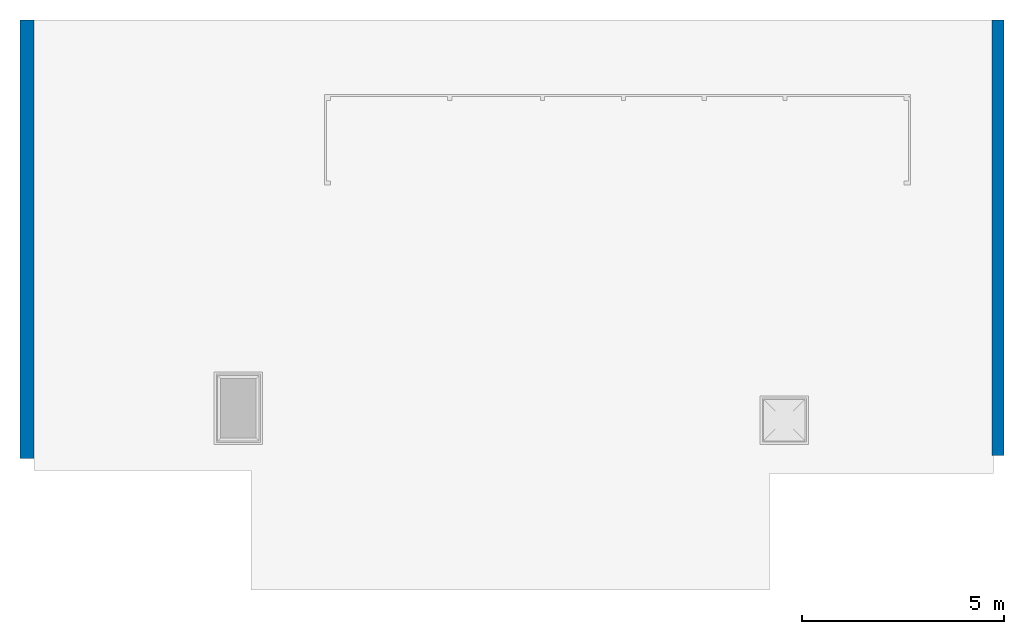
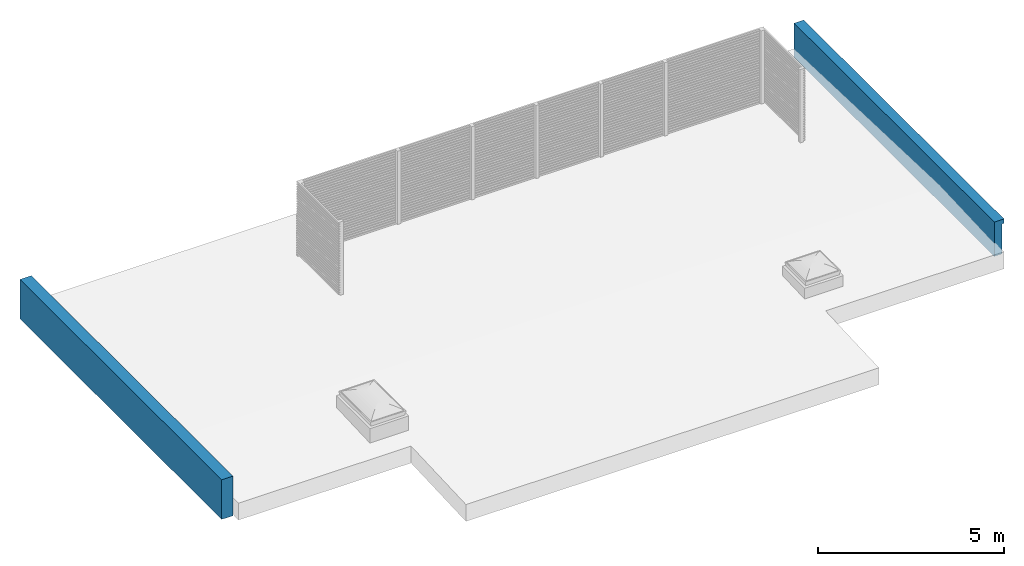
# One storey, part 1 of 4: 2 walls.
"""IFC2X3 building model written with IfcOpenShell, lengths in millimetres."""

import ifcopenshell
import ifcopenshell.guid

model = None  # the IFC model being written
_history = None  # IfcOwnerHistory: only IFC2X3 demands one
_inside = {}  # id of a spatial element -> (the spatial element, [elements in it])
_under = {}  # id of a project, library or spatial element -> (it, [spatial elements below it])
_declared = {}  # id of a project -> (the project, [libraries it declares])
_typed = {}  # id of a type object -> (the type object, [elements of that type])
_made_of = {}  # id of a material, layer set ... -> (it, [elements and type objects made of it])


def new_model(schema):
    """Start an empty IFC model of exactly this schema.

    Asked for "IFC4X3", IfcOpenShell would pick the latest addendum, in which some entities
    have other attributes; the version numbers below select the first issue.
    IFC2X3 requires an IfcOwnerHistory on every rooted entity: one is made here for all.
    """
    global model, _history
    if schema == "IFC4X3":
        model = ifcopenshell.file(schema_version=(4, 3, 0, 0))
    else:
        model = ifcopenshell.file(schema=schema)
    _inside.clear()
    _under.clear()
    _declared.clear()
    _typed.clear()
    _made_of.clear()
    _history = None
    if model.schema == "IFC2X3":
        org = make("IfcOrganization", Name="unknown")
        user = make(
            "IfcPersonAndOrganization",
            ThePerson=make("IfcPerson", FamilyName="unknown"),
            TheOrganization=org,
        )
        app = make(
            "IfcApplication",
            ApplicationDeveloper=org,
            Version="unknown",
            ApplicationFullName="unknown",
            ApplicationIdentifier="unknown",
        )
        _history = make(
            "IfcOwnerHistory",
            OwningUser=user,
            OwningApplication=app,
            ChangeAction="ADDED",
            CreationDate=0,
        )
    return model


def make(cls, **values):
    """One entity of the class cls with the attributes given. An attribute that is None is left unset."""
    return model.create_entity(
        cls, **{name: value for name, value in values.items() if value is not None}
    )


def entity(cls, *values):
    """Any entity or typed value of the class cls, its attributes in the order of the schema. None: left unset."""
    e = model.create_entity(cls)
    for i, value in enumerate(values):
        if value is not None:
            e[i] = value
    return e


def rooted(cls, **values):
    """An entity with a GlobalId (a new one), such as an element, a storey or a relation."""
    return make(cls, GlobalId=ifcopenshell.guid.new(), OwnerHistory=_history, **values)


def si_unit(unit_type, name, prefix=None):
    """IfcSIUnit, for example si_unit("LENGTHUNIT", "METRE", prefix="MILLI")."""
    return make("IfcSIUnit", UnitType=unit_type, Prefix=prefix, Name=name)


def converted_unit(unit_type, name, factor, base, dimensions=None, offset=None):
    """IfcConversionBasedUnit, such as the inch: factor (a typed value) times the base unit."""
    return make(
        "IfcConversionBasedUnit"
        if offset is None
        else "IfcConversionBasedUnitWithOffset",
        ConversionOffset=offset,
        Dimensions=None
        if dimensions is None
        else entity("IfcDimensionalExponents", *dimensions),
        UnitType=unit_type,
        Name=name,
        ConversionFactor=make(
            "IfcMeasureWithUnit", ValueComponent=factor, UnitComponent=base
        ),
    )


def derived_unit(unit_type, elements):
    """IfcDerivedUnit: a product of units, each with its exponent."""
    return make(
        "IfcDerivedUnit",
        Elements=[
            make("IfcDerivedUnitElement", Unit=unit, Exponent=power)
            for unit, power in elements
        ],
        UnitType=unit_type,
    )


def assignment(units):
    """IfcUnitAssignment: the units of a project."""
    return None if units is None else make("IfcUnitAssignment", Units=units)


def point(xyz):
    """IfcCartesianPoint."""
    return None if xyz is None else make("IfcCartesianPoint", Coordinates=xyz)


def direction(xyz):
    """IfcDirection."""
    return None if xyz is None else make("IfcDirection", DirectionRatios=xyz)


def frame(location, z_axis=None, x_axis=None):
    """IfcAxis2Placement3D, a coordinate frame: its origin and axes. An axis left out is left unset."""
    return make(
        "IfcAxis2Placement3D",
        Location=point(location),
        Axis=direction(z_axis),
        RefDirection=direction(x_axis),
    )


def frame_2d(location, x_axis=None):
    """IfcAxis2Placement2D, a coordinate frame in the plane: its origin and x axis."""
    return make(
        "IfcAxis2Placement2D", Location=point(location), RefDirection=direction(x_axis)
    )


def origin():
    """The frame at (0, 0, 0) with its axes left unset."""
    return frame((0.0, 0.0, 0.0))


def place(relative_to, where):
    """IfcLocalPlacement: puts the frame where relative to a parent placement (None: the world)."""
    return make(
        "IfcLocalPlacement", PlacementRelTo=relative_to, RelativePlacement=where
    )


def context(
    kind, dimensions, precision=None, world=None, true_north=None, identifier=None
):
    """IfcGeometricRepresentationContext, for example the 3D "Model" context."""
    return make(
        "IfcGeometricRepresentationContext",
        ContextIdentifier=identifier,
        ContextType=kind,
        CoordinateSpaceDimension=dimensions,
        Precision=precision,
        WorldCoordinateSystem=world,
        TrueNorth=true_north,
    )


def subcontext(parent, identifier, kind, view, scale=None):
    """IfcGeometricRepresentationSubContext, for example "Body" below "Model"."""
    return make(
        "IfcGeometricRepresentationSubContext",
        ContextIdentifier=identifier,
        ContextType=kind,
        ParentContext=parent,
        TargetScale=scale,
        TargetView=view,
    )


def project(units=None, contexts=None):
    """IfcProject with its units and contexts."""
    return rooted(
        "IfcProject",
        Name="project",
        RepresentationContexts=contexts,
        UnitsInContext=assignment(units),
    )


def spatial(cls, under=None, at=None, **own):
    """A site, building, storey or space (cls), placed at a placement, below another one or the project."""
    s = rooted(cls, ObjectPlacement=at, **own)
    if under is not None:
        _under.setdefault(under.id(), (under, []))[1].append(s)
    return s


def polyline(points):
    """IfcPolyline through the points."""
    return make("IfcPolyline", Points=[point(p) for p in points])


def profile(cls, at=None, kind="AREA", **sizes):
    """A parametric profile (cls). Its sizes go by their IFC names, for example OverallWidth=200.0."""
    return make(cls, ProfileType=kind, Position=at, **sizes)


def rectangle(**sizes):
    """IfcRectangleProfileDef."""
    return profile("IfcRectangleProfileDef", **sizes)


def extrude(swept, where, along, depth):
    """IfcExtrudedAreaSolid: the profile swept, set in the frame where, extruded along a direction by depth."""
    return make(
        "IfcExtrudedAreaSolid",
        SweptArea=swept,
        Position=where,
        ExtrudedDirection=direction(along),
        Depth=depth,
    )


def clip(a, b, op="DIFFERENCE"):
    """IfcBooleanClippingResult: the solid a cut by the half space b."""
    return make(
        "IfcBooleanClippingResult", Operator=op, FirstOperand=a, SecondOperand=b
    )


def bounded_halfspace(plane, agree, where, boundary):
    """IfcPolygonalBoundedHalfSpace: a half space limited to a polygon's prism."""
    return make(
        "IfcPolygonalBoundedHalfSpace",
        BaseSurface=make("IfcPlane", Position=plane),
        AgreementFlag=agree,
        Position=where,
        PolygonalBoundary=boundary,
    )


def shape(context_of_items, identifier, shape_type, items):
    """IfcShapeRepresentation: the items that make up one representation, for example the "Body"."""
    return make(
        "IfcShapeRepresentation",
        ContextOfItems=context_of_items,
        RepresentationIdentifier=identifier,
        RepresentationType=shape_type,
        Items=items,
    )


def material(Name=None, Category=None):
    """IfcMaterial."""
    return make("IfcMaterial", Name=Name, Category=Category)


def layer(
    of_material, thickness, ventilated=None, Name=None, Category=None, Priority=None
):
    """IfcMaterialLayer: one layer of a wall or slab, of a material (None: an air gap)."""
    return make(
        "IfcMaterialLayer",
        Material=of_material,
        LayerThickness=thickness,
        IsVentilated=ventilated,
        Name=Name,
        Category=Category,
        Priority=Priority,
    )


def layer_set(layers, Name=None):
    """IfcMaterialLayerSet."""
    return make("IfcMaterialLayerSet", MaterialLayers=layers, LayerSetName=Name)


def layer_usage(for_layer_set, set_direction, sense, offset, extent=None):
    """IfcMaterialLayerSetUsage: how a layer set lies in its element."""
    return make(
        "IfcMaterialLayerSetUsage",
        ForLayerSet=for_layer_set,
        LayerSetDirection=set_direction,
        DirectionSense=sense,
        OffsetFromReferenceLine=offset,
        ReferenceExtent=extent,
    )


def made_of(thing, what):
    """Note that an element or type object is made of a material, layer set ...; save() writes the relation."""
    if what is not None:
        _made_of.setdefault(what.id(), (what, []))[1].append(thing)
    return thing


def type_object(cls, material=None, **own):
    """A type object (cls), such as IfcWallType, which elements share."""
    return made_of(rooted(cls, **own), material)


def element(
    cls,
    number,
    at=None,
    inside=None,
    cuts=None,
    type_object=None,
    material=None,
    context=None,
    identifier="Body",
    shape_type=None,
    held_by="IfcProductDefinitionShape",
    body=None,
    shapes=None,
    **own,
):
    """One element of the class cls, such as IfcWall. Its Tag is "e" and its number.

    at: its placement. inside: the storey or other place that contains it. cuts: it is an
    opening in that element (IfcRelVoidsElement). A single representation is given by context,
    identifier, shape_type and body (its items); several are given by shapes. held_by: the class
    of the entity that holds the representations. save() writes the other relations.
    """
    e = rooted(cls, Tag="e%d" % number, ObjectPlacement=at, **own)
    if body is not None:
        shapes = [shape(context, identifier, shape_type, body)]
    if shapes is not None:
        e.Representation = make(held_by, Representations=shapes)
    if inside is not None:
        _inside.setdefault(inside.id(), (inside, []))[1].append(e)
    if cuts is not None:
        rooted(
            "IfcRelVoidsElement", RelatingBuildingElement=cuts, RelatedOpeningElement=e
        )
    if type_object is not None:
        _typed.setdefault(type_object.id(), (type_object, []))[1].append(e)
    return made_of(e, material)


def aggregate(whole, parts):
    """IfcRelAggregates: a whole, such as a stair, and the parts it consists of."""
    return rooted("IfcRelAggregates", RelatingObject=whole, RelatedObjects=parts)


def save(model, path):
    """Write the relations noted so far, then the file.

    IfcRelAggregates (storeys below a building ...), IfcRelContainedInSpatialStructure (elements
    in a storey), IfcRelDefinesByType, IfcRelAssociatesMaterial and IfcRelDeclares: one each for
    every whole, place, type object, material and project.
    """
    for whole, parts in _under.values():
        aggregate(whole, parts)
    for where, things in _inside.values():
        rooted(
            "IfcRelContainedInSpatialStructure",
            RelatedElements=things,
            RelatingStructure=where,
        )
    for kind, things in _typed.values():
        rooted("IfcRelDefinesByType", RelatedObjects=things, RelatingType=kind)
    for what, things in _made_of.values():
        rooted("IfcRelAssociatesMaterial", RelatedObjects=things, RelatingMaterial=what)
    for by, libraries in _declared.values():
        rooted("IfcRelDeclares", RelatingContext=by, RelatedDefinitions=libraries)
    model.write(path)


model = new_model("IFC2X3")

# Units and contexts
model_context = context("Model", 3, precision=0.01, world=origin(), true_north=direction((6.12303176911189e-17, 1.0)))
body_context = subcontext(model_context, "Body", "Model", "MODEL_VIEW")
ifc_project = project(units=[si_unit("LENGTHUNIT", "METRE", prefix="MILLI"), si_unit("AREAUNIT", "SQUARE_METRE"), si_unit("VOLUMEUNIT", "CUBIC_METRE"), converted_unit("PLANEANGLEUNIT", "DEGREE", entity("IfcRatioMeasure", 0.0174532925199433), si_unit("PLANEANGLEUNIT", "RADIAN"), dimensions=[0, 0, 0, 0, 0, 0, 0]), si_unit("MASSUNIT", "GRAM", prefix="KILO"), derived_unit("MASSDENSITYUNIT", [(si_unit("MASSUNIT", "GRAM", prefix="KILO"), 1), (si_unit("LENGTHUNIT", "METRE"), -3)]), si_unit("TIMEUNIT", "SECOND"), si_unit("FREQUENCYUNIT", "HERTZ"), si_unit("THERMODYNAMICTEMPERATUREUNIT", "DEGREE_CELSIUS"), derived_unit("THERMALTRANSMITTANCEUNIT", [(si_unit("MASSUNIT", "GRAM", prefix="KILO"), 1), (si_unit("THERMODYNAMICTEMPERATUREUNIT", "KELVIN"), -1), (si_unit("TIMEUNIT", "SECOND"), -3)]), derived_unit("VOLUMETRICFLOWRATEUNIT", [(si_unit("LENGTHUNIT", "METRE"), 3), (si_unit("TIMEUNIT", "SECOND"), -1)]), si_unit("ELECTRICCURRENTUNIT", "AMPERE"), si_unit("ELECTRICVOLTAGEUNIT", "VOLT"), si_unit("POWERUNIT", "WATT"), si_unit("FORCEUNIT", "NEWTON", prefix="KILO"), si_unit("ILLUMINANCEUNIT", "LUX"), si_unit("LUMINOUSFLUXUNIT", "LUMEN"), si_unit("LUMINOUSINTENSITYUNIT", "CANDELA"), derived_unit("USERDEFINED", [(si_unit("MASSUNIT", "GRAM", prefix="KILO"), -1), (si_unit("LENGTHUNIT", "METRE"), -2), (si_unit("TIMEUNIT", "SECOND"), 3), (si_unit("LUMINOUSFLUXUNIT", "LUMEN"), 1)]), derived_unit("LINEARVELOCITYUNIT", [(si_unit("LENGTHUNIT", "METRE"), 1), (si_unit("TIMEUNIT", "SECOND"), -1)]), si_unit("PRESSUREUNIT", "PASCAL"), derived_unit("USERDEFINED", [(si_unit("LENGTHUNIT", "METRE"), -2), (si_unit("MASSUNIT", "GRAM", prefix="KILO"), 1), (si_unit("TIMEUNIT", "SECOND"), -2)]), derived_unit("LINEARFORCEUNIT", [(si_unit("MASSUNIT", "GRAM", prefix="KILO"), 1), (si_unit("LENGTHUNIT", "METRE"), 1), (si_unit("TIMEUNIT", "SECOND"), -2), (si_unit("LENGTHUNIT", "METRE"), -1)]), derived_unit("PLANARFORCEUNIT", [(si_unit("MASSUNIT", "GRAM", prefix="KILO"), 1), (si_unit("LENGTHUNIT", "METRE"), 1), (si_unit("TIMEUNIT", "SECOND"), -2), (si_unit("LENGTHUNIT", "METRE"), -2)])], contexts=[model_context])

# Site, building, storey
site_placement = place(None, origin())
site = spatial("IfcSite", under=ifc_project, at=site_placement, Name="Default", CompositionType="ELEMENT")
building_placement = place(site_placement, origin())
building = spatial("IfcBuilding", under=site, at=building_placement, Name="SMA ARH", CompositionType="ELEMENT")
storey_placement = place(building_placement, frame((0.0, 0.0, 9700.0)))
storey = spatial("IfcBuildingStorey", under=building, at=storey_placement, Name="Katus A", CompositionType="ELEMENT", Elevation=9699.9999999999)

# Walls
ifc_material = material(Name="_ol.olev sein")
ifc_layer_1 = layer(ifc_material, 300.0)
ifc_layer_set_1 = layer_set([ifc_layer_1], Name="Basic Wall:Generic - 300mm")
ifc_layer_usage_1 = layer_usage(ifc_layer_set_1, "AXIS2", "NEGATIVE", 150.0)
wall_type_1 = type_object("IfcWallType", Name="Basic Wall:Generic - 300mm", PredefinedType="STANDARD", material=ifc_layer_set_1)
wall_1_placement = place(storey_placement, frame((30070.9780293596, 7332.77162632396, 169.031599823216), z_axis=(0.0, 0.0, 1.0), x_axis=(0.0, 1.0, 0.0)))
element("IfcWallStandardCase", 1, at=wall_1_placement, inside=storey, type_object=wall_type_1, material=ifc_layer_usage_1, Name="Basic Wall:Generic - 300mm", ObjectType="Basic Wall:Generic - 300mm", context=body_context, shape_type="Clipping", body=[
    clip(clip(extrude(rectangle(XDim=10779.1432457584, YDim=300.000000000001, at=frame_2d((5389.57162287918, -4.2632564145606e-14), x_axis=(-1.0, 0.0))), origin(), (0.0, 0.0, 1.0), 1127.33927703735), bounded_halfspace(frame((10779.1432457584, -95.0, 988.221083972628), z_axis=(0.0, 1.0, 0.0), x_axis=(-1.0, 0.0, 0.0)), True, frame((10779.1432457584, -95.0, 988.221083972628), z_axis=(0.0, 1.0, 0.0), x_axis=(-1.0, 0.0, 0.0)), polyline([(0.0, 0.0), (0.0, -988.22108397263), (10779.1432457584, -988.22108397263), (10779.1432457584, 0.0), (0.0, 0.0)]))), bounded_halfspace(frame((0.0, -95.0, 988.221083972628), z_axis=(0.0, 0.0, 1.0), x_axis=(0.0, -1.0, 0.0)), True, frame((0.0, -95.0, 988.221083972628), z_axis=(0.0, 0.0, 1.0), x_axis=(0.0, -1.0, 0.0)), polyline([(0.0, 0.0), (55.0, 0.0), (55.0, 10779.1432457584), (0.0, 10779.1432457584), (0.0, 0.0)]))),
])
ifc_layer_2 = layer(ifc_material, 350.0)
ifc_layer_set_2 = layer_set([ifc_layer_2], Name="Basic Wall:Generic - 350mm")
ifc_layer_usage_2 = layer_usage(ifc_layer_set_2, "AXIS2", "POSITIVE", -175.0)
wall_type_2 = type_object("IfcWallType", Name="Basic Wall:Generic - 350mm", PredefinedType="STANDARD", material=ifc_layer_set_2)
wall_2_placement = place(storey_placement, frame((6038.75419037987, 7252.77162632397, 0.0), z_axis=(0.0, 0.0, 1.0), x_axis=(0.0, 1.0, 0.0)))
element("IfcWallStandardCase", 2, at=wall_2_placement, inside=storey, type_object=wall_type_2, material=ifc_layer_usage_2, Name="Basic Wall:Generic - 350mm", ObjectType="Basic Wall:Generic - 350mm", context=body_context, shape_type="SweptSolid", body=[
    extrude(rectangle(XDim=10859.1432457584, YDim=350.000000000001, at=frame_2d((5429.57162287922, 2.8421709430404e-14), x_axis=(-1.0, 0.0))), origin(), (0.0, 0.0, 1.0), 1300.0),
])

save(model, "model.ifc")
